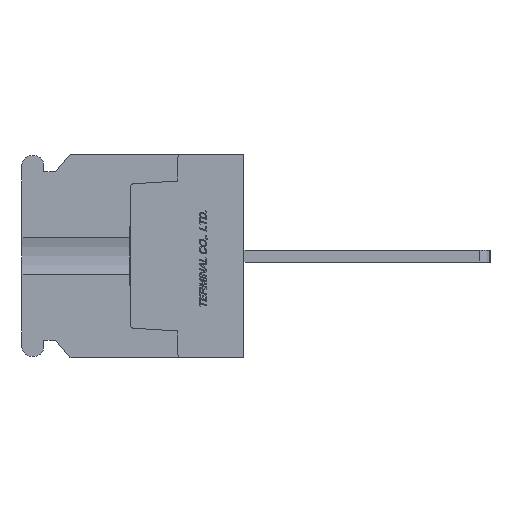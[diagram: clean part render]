
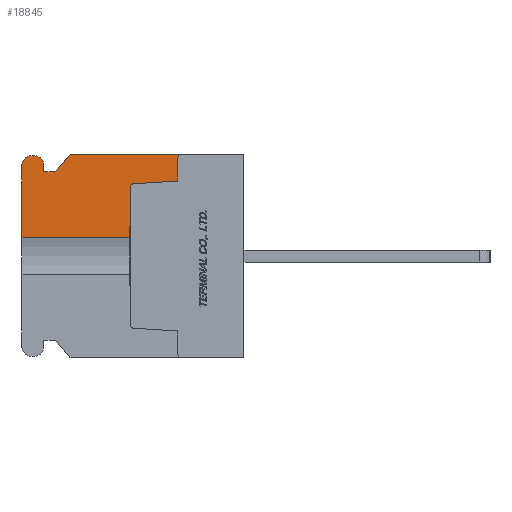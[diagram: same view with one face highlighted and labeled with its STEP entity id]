
A CAD part, left-side view. The second image highlights one B-rep face of the part: STEP entity #18845.
In plain terms, the highlighted planar face has unit normal (-1, 0, 0).
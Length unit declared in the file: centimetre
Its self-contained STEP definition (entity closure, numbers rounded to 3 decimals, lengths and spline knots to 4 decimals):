
#439=CIRCLE('',#32232,0.03);
#440=CIRCLE('',#32236,0.03);
#441=CIRCLE('',#32238,0.075);
#442=CIRCLE('',#32239,0.075);
#1612=VERTEX_POINT('',#26397);
#1613=VERTEX_POINT('',#26399);
#1614=VERTEX_POINT('',#26403);
#1615=VERTEX_POINT('',#26407);
#1616=VERTEX_POINT('',#26411);
#1617=VERTEX_POINT('',#26415);
#1618=VERTEX_POINT('',#26417);
#1619=VERTEX_POINT('',#26419);
#1620=VERTEX_POINT('',#26421);
#1621=VERTEX_POINT('',#26423);
#1622=VERTEX_POINT('',#26425);
#1623=VERTEX_POINT('',#26427);
#1624=VERTEX_POINT('',#26429);
#1625=VERTEX_POINT('',#26431);
#3646=VECTOR('',#21024,1.);
#3648=VECTOR('',#21027,1.);
#3650=VECTOR('',#21034,1.);
#3651=VECTOR('',#21035,1.);
#3652=VECTOR('',#21036,1.);
#3653=VECTOR('',#21037,1.);
#3654=VECTOR('',#21038,1.);
#3655=VECTOR('',#21041,1.);
#3656=VECTOR('',#21044,1.);
#3657=VECTOR('',#21045,1.);
#5719=LINE('',#26404,#3646);
#5721=LINE('',#26408,#3648);
#5723=LINE('',#26414,#3650);
#5724=LINE('',#26416,#3651);
#5725=LINE('',#26418,#3652);
#5726=LINE('',#26420,#3653);
#5727=LINE('',#26422,#3654);
#5728=LINE('',#26426,#3655);
#5729=LINE('',#26430,#3656);
#5730=LINE('',#26432,#3657);
#7900=EDGE_CURVE('',#1613,#1612,#439,.T.);
#7903=EDGE_CURVE('',#1612,#1614,#5719,.T.);
#7905=EDGE_CURVE('',#1614,#1615,#5721,.T.);
#7907=EDGE_CURVE('',#1615,#1616,#440,.T.);
#7908=EDGE_CURVE('',#1617,#1613,#5723,.T.);
#7909=EDGE_CURVE('',#1618,#1616,#5724,.T.);
#7910=EDGE_CURVE('',#1619,#1618,#5725,.T.);
#7911=EDGE_CURVE('',#1620,#1619,#5726,.T.);
#7912=EDGE_CURVE('',#1621,#1620,#5727,.T.);
#7913=EDGE_CURVE('',#1622,#1621,#441,.T.);
#7914=EDGE_CURVE('',#1623,#1622,#5728,.T.);
#7915=EDGE_CURVE('',#1624,#1623,#442,.T.);
#7916=EDGE_CURVE('',#1625,#1624,#5729,.T.);
#7917=EDGE_CURVE('',#1625,#1617,#5730,.T.);
#11363=ORIENTED_EDGE('',*,*,#7908,.T.);
#11364=ORIENTED_EDGE('',*,*,#7900,.T.);
#11365=ORIENTED_EDGE('',*,*,#7903,.T.);
#11366=ORIENTED_EDGE('',*,*,#7905,.T.);
#11367=ORIENTED_EDGE('',*,*,#7907,.T.);
#11368=ORIENTED_EDGE('',*,*,#7909,.F.);
#11369=ORIENTED_EDGE('',*,*,#7910,.F.);
#11370=ORIENTED_EDGE('',*,*,#7911,.F.);
#11371=ORIENTED_EDGE('',*,*,#7912,.F.);
#11372=ORIENTED_EDGE('',*,*,#7913,.F.);
#11373=ORIENTED_EDGE('',*,*,#7914,.F.);
#11374=ORIENTED_EDGE('',*,*,#7915,.F.);
#11375=ORIENTED_EDGE('',*,*,#7916,.F.);
#11376=ORIENTED_EDGE('',*,*,#7917,.T.);
#16457=EDGE_LOOP('',(#11363,#11364,#11365,#11366,#11367,#11368,#11369,#11370,
#11371,#11372,#11373,#11374,#11375,#11376));
#17661=FACE_BOUND('',#16457,.T.);
#18845=ADVANCED_FACE('',(#17661),#19868,.F.);
#19868=PLANE('',#32237);
#21019=DIRECTION('',(1.,0.,0.));
#21020=DIRECTION('',(0.,0.,0.03));
#21024=DIRECTION('',(0.,-0.998,0.061));
#21027=DIRECTION('',(0.,0.,1.));
#21031=DIRECTION('',(1.,0.,0.));
#21032=DIRECTION('',(0.,0.,0.03));
#21033=DIRECTION('',(1.,0.,0.));
#21034=DIRECTION('',(0.,0.,1.));
#21035=DIRECTION('',(0.,-1.,0.));
#21036=DIRECTION('',(0.,-0.625,0.781));
#21037=DIRECTION('',(0.,-1.,0.));
#21038=DIRECTION('',(0.,0.,-1.));
#21039=DIRECTION('',(1.,0.,0.));
#21040=DIRECTION('',(0.,0.,-0.075));
#21041=DIRECTION('',(0.,-1.,0.));
#21042=DIRECTION('',(1.,0.,0.));
#21043=DIRECTION('',(0.,0.,-0.075));
#21044=DIRECTION('',(0.,0.,1.));
#21045=DIRECTION('',(0.,-1.,0.));
#26397=CARTESIAN_POINT('',(-1.1,0.9218,0.6017));
#26398=CARTESIAN_POINT('',(-1.1,0.92,0.5718));
#26399=CARTESIAN_POINT('',(-1.1,0.95,0.5718));
#26403=CARTESIAN_POINT('',(-1.1,0.55,0.6245));
#26404=CARTESIAN_POINT('',(-1.1,0.859,0.6056));
#26407=CARTESIAN_POINT('',(-1.1,0.55,0.82));
#26408=CARTESIAN_POINT('',(-1.1,0.55,0.3611));
#26411=CARTESIAN_POINT('',(-1.1,0.52,0.85));
#26412=CARTESIAN_POINT('',(-1.1,0.52,0.82));
#26413=CARTESIAN_POINT('',(-1.1,0.9454,0.));
#26414=CARTESIAN_POINT('',(-1.1,0.95,0.));
#26415=CARTESIAN_POINT('',(-1.1,0.95,0.1521));
#26416=CARTESIAN_POINT('',(-1.1,1.45,0.85));
#26417=CARTESIAN_POINT('',(-1.1,1.45,0.85));
#26418=CARTESIAN_POINT('',(-1.1,1.57,0.7));
#26419=CARTESIAN_POINT('',(-1.1,1.57,0.7));
#26420=CARTESIAN_POINT('',(-1.1,1.67,0.7));
#26421=CARTESIAN_POINT('',(-1.1,1.67,0.7));
#26422=CARTESIAN_POINT('',(-1.1,1.67,0.76));
#26423=CARTESIAN_POINT('',(-1.1,1.67,0.76));
#26424=CARTESIAN_POINT('',(-1.1,1.745,0.76));
#26425=CARTESIAN_POINT('',(-1.1,1.745,0.835));
#26426=CARTESIAN_POINT('',(-1.1,1.775,0.835));
#26427=CARTESIAN_POINT('',(-1.1,1.775,0.835));
#26428=CARTESIAN_POINT('',(-1.1,1.775,0.76));
#26429=CARTESIAN_POINT('',(-1.1,1.85,0.76));
#26430=CARTESIAN_POINT('',(-1.1,1.85,-0.76));
#26431=CARTESIAN_POINT('',(-1.1,1.85,0.1521));
#26432=CARTESIAN_POINT('',(-1.1,1.4,0.1521));
#32232=AXIS2_PLACEMENT_3D('',#26398,#21019,#21020);
#32236=AXIS2_PLACEMENT_3D('',#26412,#21031,#21032);
#32237=AXIS2_PLACEMENT_3D('',#26413,#21033,$);
#32238=AXIS2_PLACEMENT_3D('',#26424,#21039,#21040);
#32239=AXIS2_PLACEMENT_3D('',#26428,#21042,#21043);
